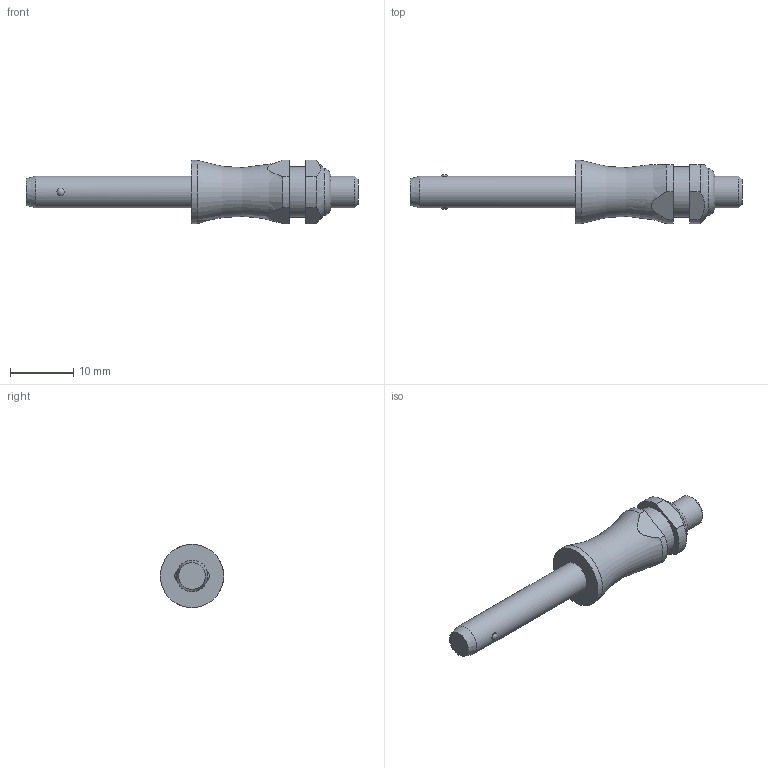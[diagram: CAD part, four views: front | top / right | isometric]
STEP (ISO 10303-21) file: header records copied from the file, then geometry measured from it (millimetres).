
FILE_DESCRIPTION( ( 'STEP AP203' ), '1' );
FILE_NAME( 'C:/Temp/Ganter_Step_05_03_2020/data/3_1/gn113_3/Stainless Steel-Ball lock pin GN 113.3-5-20 (deactivated).stp', '2020-03-12T08:18:09', ( 'License CC BY-ND 4.0' ), ( 'CADENAS' ), ' ', 'PARTsolutions', ' ' );
FILE_SCHEMA( ( 'CONFIG_CONTROL_DESIGN' ) );
Length unit declared in the file: millimetre
Products named in the file (1): _Stainless Steel-Ball lock pin GN 113.3-5-20 (deactivated)
Bounding box: 52.3 x 10 x 10 mm (x, y, z)
Volume: 1847 mm3; surface area: 1227.9 mm2
Topology: 1 solids, 1 shells, 29 faces, 61 edges, 40 vertices
Faces by surface type: plane 12, cylinder 10, cone 3, torus 2, sphere 2
Full cylindrical faces by diameter (mm): 5 x2, 7.9 x1, 10 x1
Entity records: 902 total; most frequent: CARTESIAN_POINT 272, DIRECTION 126, ORIENTED_EDGE 100, AXIS2_PLACEMENT_3D 54, EDGE_CURVE 50, EDGE_LOOP 44, VERTEX_POINT 38, FACE_OUTER_BOUND 35
